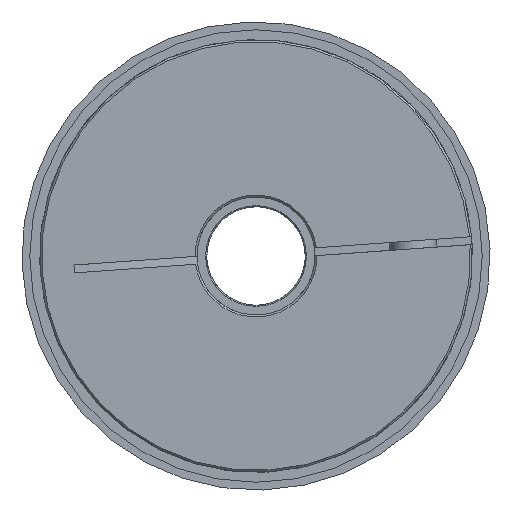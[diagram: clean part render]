
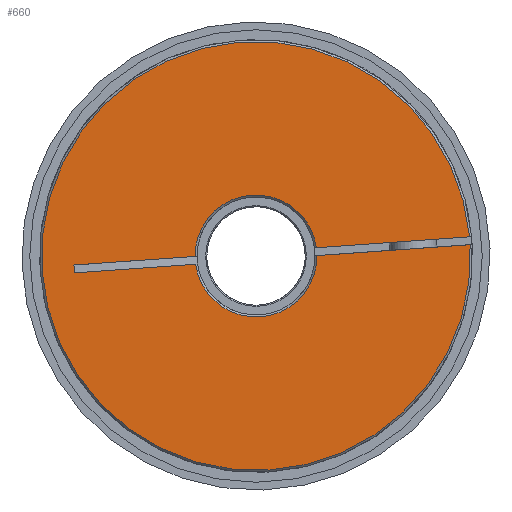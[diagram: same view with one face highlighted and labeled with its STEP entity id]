
A CAD part, left-side view. The second image highlights one B-rep face of the part: STEP entity #660.
In plain terms, the highlighted planar face has unit normal (-1, 0, 0).
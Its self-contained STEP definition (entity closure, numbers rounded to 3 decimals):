
#660 = ADVANCED_FACE( 'NONE', ( #1340 ), #1341, .F. );
#1340 = FACE_OUTER_BOUND( '', #2089, .T. );
#1341 = PLANE( '', #2090 );
#2089 = EDGE_LOOP( '', ( #3191, #3192, #3193, #3194, #3195, #3196, #3197, #3198 ) );
#2090 = AXIS2_PLACEMENT_3D( '', #3199, #3200, #3201 );
#3191 = ORIENTED_EDGE( '', *, *, #4125, .T. );
#3192 = ORIENTED_EDGE( '', *, *, #3920, .T. );
#3193 = ORIENTED_EDGE( '', *, *, #3946, .T. );
#3194 = ORIENTED_EDGE( '', *, *, #3909, .T. );
#3195 = ORIENTED_EDGE( '', *, *, #3855, .F. );
#3196 = ORIENTED_EDGE( '', *, *, #4126, .T. );
#3197 = ORIENTED_EDGE( '', *, *, #4127, .F. );
#3198 = ORIENTED_EDGE( '', *, *, #4128, .T. );
#3199 = CARTESIAN_POINT( '', ( 0., 15., 0. ) );
#3200 = DIRECTION( '', ( 1., 0., 0. ) );
#3201 = DIRECTION( '', ( 0., 1., 0. ) );
#3855 = EDGE_CURVE( 'NONE', #4420, #4422, #4423, .F. );
#3909 = EDGE_CURVE( 'NONE', #4509, #4422, #4510, .F. );
#3920 = EDGE_CURVE( 'NONE', #4529, #4527, #4530, .T. );
#3946 = EDGE_CURVE( 'NONE', #4527, #4509, #4570, .T. );
#4125 = EDGE_CURVE( 'NONE', #4831, #4529, #4832, .T. );
#4126 = EDGE_CURVE( 'NONE', #4420, #4833, #4834, .T. );
#4127 = EDGE_CURVE( 'NONE', #4835, #4833, #4836, .F. );
#4128 = EDGE_CURVE( 'NONE', #4835, #4831, #4837, .T. );
#4420 = VERTEX_POINT( 'NONE', #5190 );
#4422 = VERTEX_POINT( 'NONE', #5195 );
#4423 = LINE( '', #5196, #5197 );
#4509 = VERTEX_POINT( 'NONE', #5357 );
#4510 = CIRCLE( '', #5358, 54.5 );
#4527 = VERTEX_POINT( 'NONE', #5480 );
#4529 = VERTEX_POINT( 'NONE', #5485 );
#4530 = CIRCLE( '', #5486, 15.5 );
#4570 = LINE( '', #5529, #5530 );
#4831 = VERTEX_POINT( 'NONE', #6147 );
#4832 = LINE( '', #6148, #6149 );
#4833 = VERTEX_POINT( 'NONE', #6150 );
#4834 = CIRCLE( '', #6151, 15.5 );
#4835 = VERTEX_POINT( 'NONE', #6152 );
#4836 = LINE( '', #6153, #6154 );
#4837 = LINE( '', #6155, #6156 );
#5190 = CARTESIAN_POINT( '', ( 0., -15.468, -1. ) );
#5195 = CARTESIAN_POINT( '', ( 0., -54.491, -1. ) );
#5196 = CARTESIAN_POINT( '', ( 0., -15., -1. ) );
#5197 = VECTOR( '', #6563, 1000. );
#5357 = CARTESIAN_POINT( '', ( 0., -54.491, 1. ) );
#5358 = AXIS2_PLACEMENT_3D( '', #6638, #6639, #6640 );
#5480 = CARTESIAN_POINT( '', ( 0., -15.468, 1. ) );
#5485 = CARTESIAN_POINT( '', ( 0., 15.468, 1. ) );
#5486 = AXIS2_PLACEMENT_3D( '', #6653, #6654, #6655 );
#5529 = CARTESIAN_POINT( '', ( 0., 15., 1. ) );
#5530 = VECTOR( '', #6698, 1000. );
#6147 = CARTESIAN_POINT( '', ( 0., 46.303, 1. ) );
#6148 = CARTESIAN_POINT( '', ( 0., 15., 1. ) );
#6149 = VECTOR( '', #6928, 1000. );
#6150 = CARTESIAN_POINT( '', ( 0., 15.468, -1. ) );
#6151 = AXIS2_PLACEMENT_3D( '', #6929, #6930, #6931 );
#6152 = CARTESIAN_POINT( '', ( 0., 46.303, -1. ) );
#6153 = CARTESIAN_POINT( '', ( 0., -15., -1. ) );
#6154 = VECTOR( '', #6932, 1000. );
#6155 = CARTESIAN_POINT( '', ( 0., 46.303, -1. ) );
#6156 = VECTOR( '', #6933, 1000. );
#6563 = DIRECTION( '', ( 0., 1., 0. ) );
#6638 = CARTESIAN_POINT( '', ( 0., 0., 0. ) );
#6639 = DIRECTION( '', ( 1., 0., 0. ) );
#6640 = DIRECTION( '', ( 0., 0., -1. ) );
#6653 = CARTESIAN_POINT( '', ( 0., 0., 0. ) );
#6654 = DIRECTION( '', ( 1., 0., 0. ) );
#6655 = DIRECTION( '', ( 0., 0., -1. ) );
#6698 = DIRECTION( '', ( 0., -1., 0. ) );
#6928 = DIRECTION( '', ( 0., -1., 0. ) );
#6929 = CARTESIAN_POINT( '', ( 0., 0., 0. ) );
#6930 = DIRECTION( '', ( 1., 0., 0. ) );
#6931 = DIRECTION( '', ( 0., 0., -1. ) );
#6932 = DIRECTION( '', ( 0., 1., 0. ) );
#6933 = DIRECTION( '', ( 0., 0., 1. ) );
